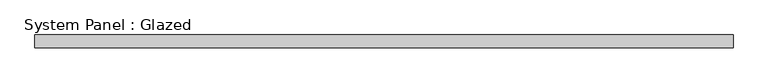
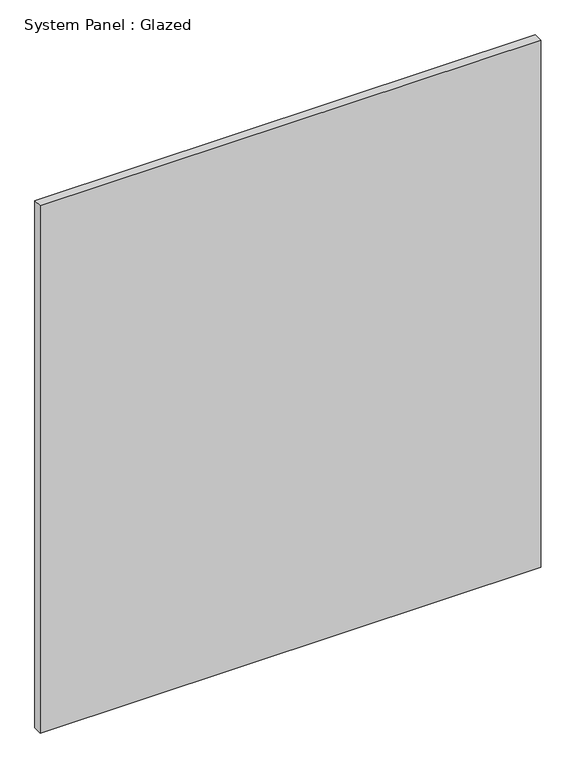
"""IFC4 building model written with IfcOpenShell, lengths in millimetres: plate geometry, System Panel : Glazed."""

from ifc_helpers import new_model, si_unit, origin, origin_with_axes, place, context, project, spatial, polyline, outline, extrude, source, transform, mapped, element, save


def system_panel_glazed_8bc432e9(model_context):
    return source(origin(), model_context, "Body", "SweptSolid", [
        extrude(outline(polyline([(698.6023927, 19.05), (-698.6023927, 19.05), (-698.6023927, 44.45), (698.6023927, 44.45), (698.6023927, 19.05)])), origin_with_axes(), (0.0, 0.0, 1.0), 1555.75),
    ])


if __name__ == "__main__":
    model = new_model("IFC4")
    model_context = context("Model", 3, world=origin())
    ifc_project = project(units=[si_unit("LENGTHUNIT", "METRE", prefix="MILLI")], contexts=[model_context])
    site = spatial("IfcSite", under=ifc_project)
    building = spatial("IfcBuilding", under=site)
    placement = place(None, origin())
    system_panel_glazed_shape = system_panel_glazed_8bc432e9(model_context)
    element("IfcPlate", 1, ObjectType="System Panel : Glazed", at=placement, inside=building, context=model_context, shape_type="MappedRepresentation", body=[
        mapped(system_panel_glazed_shape, transform((0.0, 0.0, 0.0), x_axis=(1.0, 0.0, 0.0), y_axis=(0.0, 1.0, 0.0), z_axis=(0.0, 0.0, 1.0))),
    ])
    save(model, "model.ifc")
